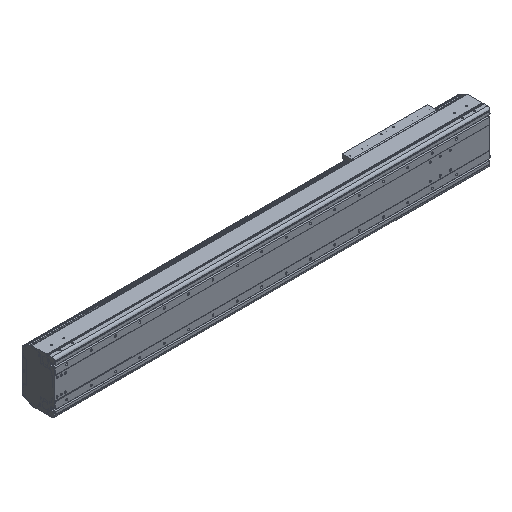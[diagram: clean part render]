
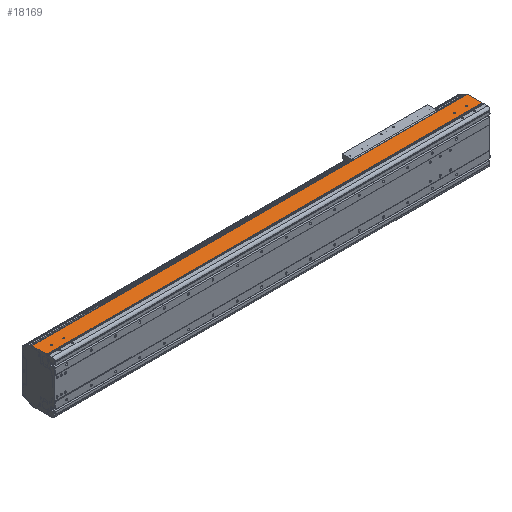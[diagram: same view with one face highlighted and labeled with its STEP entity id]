
A CAD part, isometric view. The second image highlights one B-rep face of the part: STEP entity #18169.
In plain terms, the highlighted planar face has unit normal (0, 0, 1).
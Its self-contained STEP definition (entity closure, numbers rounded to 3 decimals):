
#1802=DIRECTION('',(1.,0.,0.));
#1803=VECTOR('',#1802,2.);
#1804=CARTESIAN_POINT('',(0.,34.65,107.));
#1805=LINE('',#1804,#1803);
#1810=CARTESIAN_POINT('',(-42.,54.,107.));
#1811=DIRECTION('',(0.,0.,-1.));
#1812=DIRECTION('',(1.,0.,0.));
#1813=AXIS2_PLACEMENT_3D('',#1810,#1811,#1812);
#1815=CARTESIAN_POINT('',(-42.,54.,107.));
#1816=DIRECTION('',(0.,0.,-1.));
#1817=DIRECTION('',(-1.,0.,0.));
#1818=AXIS2_PLACEMENT_3D('',#1815,#1816,#1817);
#1820=CARTESIAN_POINT('',(-92.,54.,107.));
#1821=DIRECTION('',(0.,0.,-1.));
#1822=DIRECTION('',(1.,0.,0.));
#1823=AXIS2_PLACEMENT_3D('',#1820,#1821,#1822);
#1825=CARTESIAN_POINT('',(-92.,54.,107.));
#1826=DIRECTION('',(0.,0.,-1.));
#1827=DIRECTION('',(-1.,0.,0.));
#1828=AXIS2_PLACEMENT_3D('',#1825,#1826,#1827);
#1830=CARTESIAN_POINT('',(-1744.,54.,107.));
#1831=DIRECTION('',(0.,0.,-1.));
#1832=DIRECTION('',(1.,0.,0.));
#1833=AXIS2_PLACEMENT_3D('',#1830,#1831,#1832);
#1835=CARTESIAN_POINT('',(-1744.,54.,107.));
#1836=DIRECTION('',(0.,0.,-1.));
#1837=DIRECTION('',(-1.,0.,0.));
#1838=AXIS2_PLACEMENT_3D('',#1835,#1836,#1837);
#1840=CARTESIAN_POINT('',(-1694.,54.,107.));
#1841=DIRECTION('',(0.,0.,-1.));
#1842=DIRECTION('',(1.,0.,0.));
#1843=AXIS2_PLACEMENT_3D('',#1840,#1841,#1842);
#1845=CARTESIAN_POINT('',(-1694.,54.,107.));
#1846=DIRECTION('',(0.,0.,-1.));
#1847=DIRECTION('',(-1.,0.,0.));
#1848=AXIS2_PLACEMENT_3D('',#1845,#1846,#1847);
#1850=DIRECTION('',(0.,-1.,0.));
#1851=VECTOR('',#1850,2.55);
#1852=CARTESIAN_POINT('',(-1784.,34.65,107.));
#1853=LINE('',#1852,#1851);
#1854=DIRECTION('',(0.,-1.,0.));
#1855=VECTOR('',#1854,58.85);
#1856=CARTESIAN_POINT('',(-1786.,93.5,107.));
#1857=LINE('',#1856,#1855);
#1858=DIRECTION('',(0.,1.,0.));
#1859=VECTOR('',#1858,58.85);
#1860=CARTESIAN_POINT('',(2.,34.65,107.));
#1861=LINE('',#1860,#1859);
#1862=DIRECTION('',(0.,1.,0.));
#1863=VECTOR('',#1862,2.55);
#1864=CARTESIAN_POINT('',(0.,32.1,107.));
#1865=LINE('',#1864,#1863);
#1974=DIRECTION('',(1.,0.,0.));
#1975=VECTOR('',#1974,2.);
#1976=CARTESIAN_POINT('',(-1786.,34.65,107.));
#1977=LINE('',#1976,#1975);
#10119=DIRECTION('',(-1.,0.,0.));
#10120=VECTOR('',#10119,1788.);
#10121=CARTESIAN_POINT('',(2.,93.5,107.));
#10122=LINE('',#10121,#10120);
#11471=DIRECTION('',(1.,0.,0.));
#11472=VECTOR('',#11471,1784.);
#11473=CARTESIAN_POINT('',(-1784.,32.1,107.));
#11474=LINE('',#11473,#11472);
#12425=CARTESIAN_POINT('',(-1786.,34.65,107.));
#12426=VERTEX_POINT('',#12425);
#12427=CARTESIAN_POINT('',(-1786.,93.5,107.));
#12428=VERTEX_POINT('',#12427);
#12649=CARTESIAN_POINT('',(-1784.,32.1,107.));
#12650=VERTEX_POINT('',#12649);
#12721=CARTESIAN_POINT('',(0.,32.1,107.));
#12722=VERTEX_POINT('',#12721);
#13201=CARTESIAN_POINT('',(-39.5,54.,107.));
#13202=CARTESIAN_POINT('',(-44.5,54.,107.));
#13203=VERTEX_POINT('',#13201);
#13204=VERTEX_POINT('',#13202);
#13205=CARTESIAN_POINT('',(-89.5,54.,107.));
#13206=CARTESIAN_POINT('',(-94.5,54.,107.));
#13207=VERTEX_POINT('',#13205);
#13208=VERTEX_POINT('',#13206);
#13209=CARTESIAN_POINT('',(-1741.5,54.,107.));
#13210=CARTESIAN_POINT('',(-1746.5,54.,107.));
#13211=VERTEX_POINT('',#13209);
#13212=VERTEX_POINT('',#13210);
#13213=CARTESIAN_POINT('',(-1691.5,54.,107.));
#13214=CARTESIAN_POINT('',(-1696.5,54.,107.));
#13215=VERTEX_POINT('',#13213);
#13216=VERTEX_POINT('',#13214);
#14416=CARTESIAN_POINT('',(2.,34.65,107.));
#14417=VERTEX_POINT('',#14416);
#14418=CARTESIAN_POINT('',(2.,93.5,107.));
#14419=VERTEX_POINT('',#14418);
#14638=CARTESIAN_POINT('',(0.,34.65,107.));
#14639=VERTEX_POINT('',#14638);
#14950=CARTESIAN_POINT('',(-1784.,34.65,107.));
#14951=VERTEX_POINT('',#14950);
#18126=CARTESIAN_POINT('',(-892.,62.8,107.));
#18127=DIRECTION('',(0.,0.,1.));
#18128=DIRECTION('',(0.,-1.,0.));
#18129=AXIS2_PLACEMENT_3D('',#18126,#18127,#18128);
#18130=PLANE('',#18129);
#18131=ORIENTED_EDGE('',*,*,#16778,.F.);
#18133=ORIENTED_EDGE('',*,*,#18132,.F.);
#18135=ORIENTED_EDGE('',*,*,#18134,.F.);
#18137=ORIENTED_EDGE('',*,*,#18136,.F.);
#18138=ORIENTED_EDGE('',*,*,#17933,.F.);
#18139=ORIENTED_EDGE('',*,*,#18119,.F.);
#18140=ORIENTED_EDGE('',*,*,#16408,.F.);
#18142=ORIENTED_EDGE('',*,*,#18141,.F.);
#18143=EDGE_LOOP('',(#18131,#18133,#18135,#18137,#18138,#18139,#18140,#18142));
#18144=FACE_OUTER_BOUND('',#18143,.F.);
#18146=ORIENTED_EDGE('',*,*,#18145,.F.);
#18148=ORIENTED_EDGE('',*,*,#18147,.F.);
#18149=EDGE_LOOP('',(#18146,#18148));
#18150=FACE_BOUND('',#18149,.F.);
#18152=ORIENTED_EDGE('',*,*,#18151,.F.);
#18154=ORIENTED_EDGE('',*,*,#18153,.F.);
#18155=EDGE_LOOP('',(#18152,#18154));
#18156=FACE_BOUND('',#18155,.F.);
#18158=ORIENTED_EDGE('',*,*,#18157,.F.);
#18160=ORIENTED_EDGE('',*,*,#18159,.F.);
#18161=EDGE_LOOP('',(#18158,#18160));
#18162=FACE_BOUND('',#18161,.F.);
#18164=ORIENTED_EDGE('',*,*,#18163,.F.);
#18166=ORIENTED_EDGE('',*,*,#18165,.F.);
#18167=EDGE_LOOP('',(#18164,#18166));
#18168=FACE_BOUND('',#18167,.F.);
#18169=ADVANCED_FACE('',(#18144,#18150,#18156,#18162,#18168),#18130,.T.);
#1814=CIRCLE('',#1813,2.5);
#1819=CIRCLE('',#1818,2.5);
#1824=CIRCLE('',#1823,2.5);
#1829=CIRCLE('',#1828,2.5);
#1834=CIRCLE('',#1833,2.5);
#1839=CIRCLE('',#1838,2.5);
#1844=CIRCLE('',#1843,2.5);
#1849=CIRCLE('',#1848,2.5);
#16408=EDGE_CURVE('',#12722,#14639,#1865,.T.);
#16778=EDGE_CURVE('',#14951,#12650,#1853,.T.);
#17933=EDGE_CURVE('',#14417,#14419,#1861,.T.);
#18119=EDGE_CURVE('',#14639,#14417,#1805,.T.);
#18132=EDGE_CURVE('',#12426,#14951,#1977,.T.);
#18134=EDGE_CURVE('',#12428,#12426,#1857,.T.);
#18136=EDGE_CURVE('',#14419,#12428,#10122,.T.);
#18141=EDGE_CURVE('',#12650,#12722,#11474,.T.);
#18145=EDGE_CURVE('',#13207,#13208,#1824,.T.);
#18147=EDGE_CURVE('',#13208,#13207,#1829,.T.);
#18151=EDGE_CURVE('',#13211,#13212,#1834,.T.);
#18153=EDGE_CURVE('',#13212,#13211,#1839,.T.);
#18157=EDGE_CURVE('',#13215,#13216,#1844,.T.);
#18159=EDGE_CURVE('',#13216,#13215,#1849,.T.);
#18163=EDGE_CURVE('',#13203,#13204,#1814,.T.);
#18165=EDGE_CURVE('',#13204,#13203,#1819,.T.);
